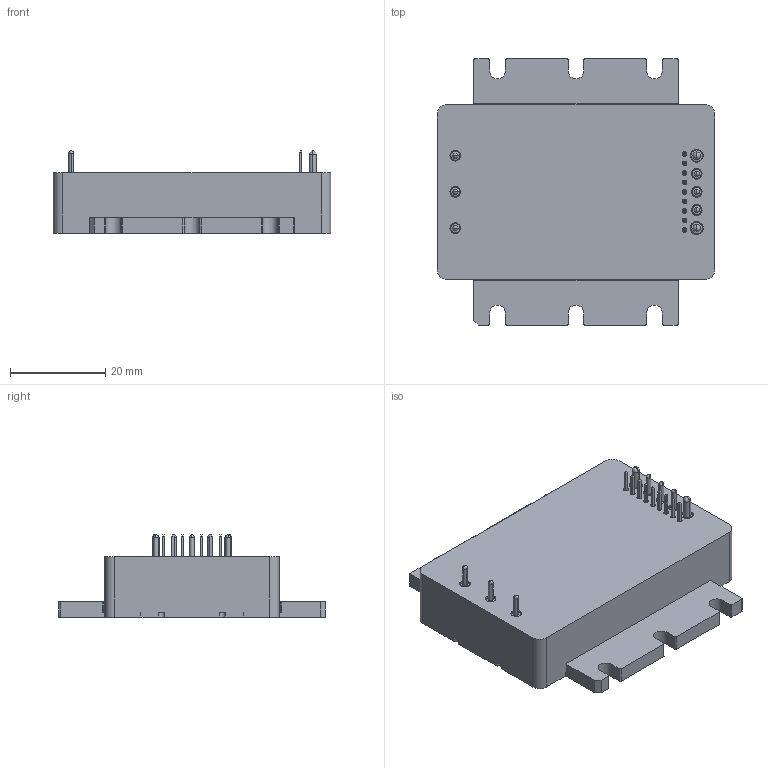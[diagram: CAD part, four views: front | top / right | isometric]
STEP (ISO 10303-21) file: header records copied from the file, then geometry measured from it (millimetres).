
FILE_DESCRIPTION (( 'STEP AP203' ), '1' );
FILE_NAME ('QB_Pmbus_Flanged.STEP', '2024-10-23T11:26:43', ( '' ), ( '' ), 'SwSTEP 2.0', 'SolidWorks 2021', '' );
FILE_SCHEMA (( 'CONFIG_CONTROL_DESIGN' ));
Length unit declared in the file: millimetre
Products named in the file (1): QB_Pmbus_Flanged
Bounding box: 58.4 x 56 x 17.3 mm (x, y, z)
Volume: 25152.7 mm3; surface area: 14381.3 mm2
Topology: 1 solids, 9 shells, 807 faces, 1973 edges, 1240 vertices
Faces by surface type: plane 509, cylinder 234, cone 48, sphere 16
Entity records: 24274 total; most frequent: CARTESIAN_POINT 5493, ORIENTED_EDGE 3906, DIRECTION 3827, EDGE_CURVE 1953, AXIS2_PLACEMENT_3D 1374, VERTEX_POINT 1236, VECTOR 1079, LINE 1079
